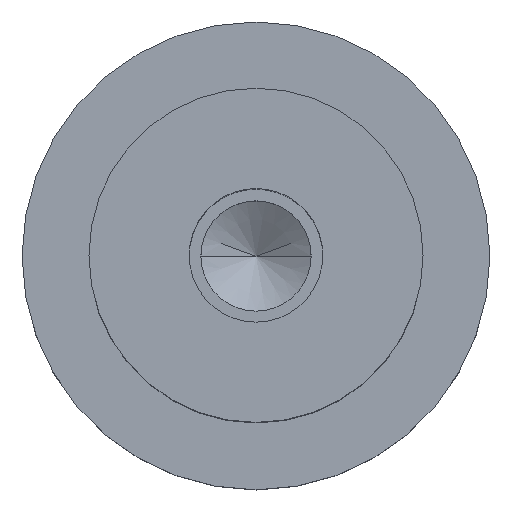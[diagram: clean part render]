
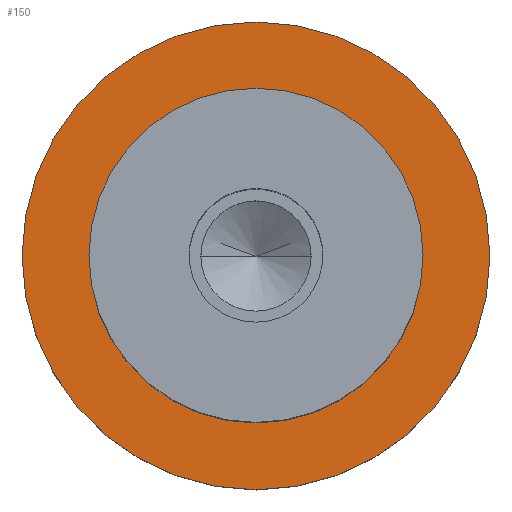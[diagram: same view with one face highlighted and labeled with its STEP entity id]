
A CAD part, top view. The second image highlights one B-rep face of the part: STEP entity #150.
In plain terms, the highlighted planar face has unit normal (0, 0, 1).
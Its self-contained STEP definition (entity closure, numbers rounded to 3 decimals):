
#101=PLANE('',#564);
#110=FACE_BOUND('',#211,.T.);
#111=FACE_BOUND('',#212,.T.);
#150=ADVANCED_FACE('',(#110,#111),#101,.T.);
#211=EDGE_LOOP('',(#319,#320));
#212=EDGE_LOOP('',(#321,#322));
#247=CIRCLE('',#558,5.);
#248=CIRCLE('',#560,5.);
#249=CIRCLE('',#562,7.);
#250=CIRCLE('',#563,7.);
#319=ORIENTED_EDGE('',*,*,#455,.F.);
#320=ORIENTED_EDGE('',*,*,#456,.F.);
#321=ORIENTED_EDGE('',*,*,#454,.T.);
#322=ORIENTED_EDGE('',*,*,#452,.T.);
#406=VERTEX_POINT('',#812);
#407=VERTEX_POINT('',#814);
#408=VERTEX_POINT('',#820);
#409=VERTEX_POINT('',#821);
#452=EDGE_CURVE('',#407,#406,#247,.T.);
#454=EDGE_CURVE('',#406,#407,#248,.T.);
#455=EDGE_CURVE('',#408,#409,#249,.T.);
#456=EDGE_CURVE('',#409,#408,#250,.T.);
#558=AXIS2_PLACEMENT_3D('',#813,#660,#661);
#560=AXIS2_PLACEMENT_3D('',#817,#665,#666);
#562=AXIS2_PLACEMENT_3D('',#819,#669,#670);
#563=AXIS2_PLACEMENT_3D('',#822,#671,#672);
#564=AXIS2_PLACEMENT_3D('',#823,#673,#674);
#660=DIRECTION('',(0.,0.,-1.));
#661=DIRECTION('',(0.,1.,0.));
#665=DIRECTION('',(0.,0.,-1.));
#666=DIRECTION('',(0.,-1.,0.));
#669=DIRECTION('',(0.,0.,-1.));
#670=DIRECTION('',(0.,1.,0.));
#671=DIRECTION('',(0.,0.,-1.));
#672=DIRECTION('',(0.,-1.,0.));
#673=DIRECTION('',(0.,0.,1.));
#674=DIRECTION('',(0.,-1.,0.));
#812=CARTESIAN_POINT('',(-5.,0.,0.));
#813=CARTESIAN_POINT('',(0.,0.,0.));
#814=CARTESIAN_POINT('',(5.,0.,0.));
#817=CARTESIAN_POINT('',(0.,0.,0.));
#819=CARTESIAN_POINT('',(0.,0.,0.));
#820=CARTESIAN_POINT('',(7.,0.,0.));
#821=CARTESIAN_POINT('',(-7.,0.,0.));
#822=CARTESIAN_POINT('',(0.,0.,0.));
#823=CARTESIAN_POINT('',(0.,0.,0.));
